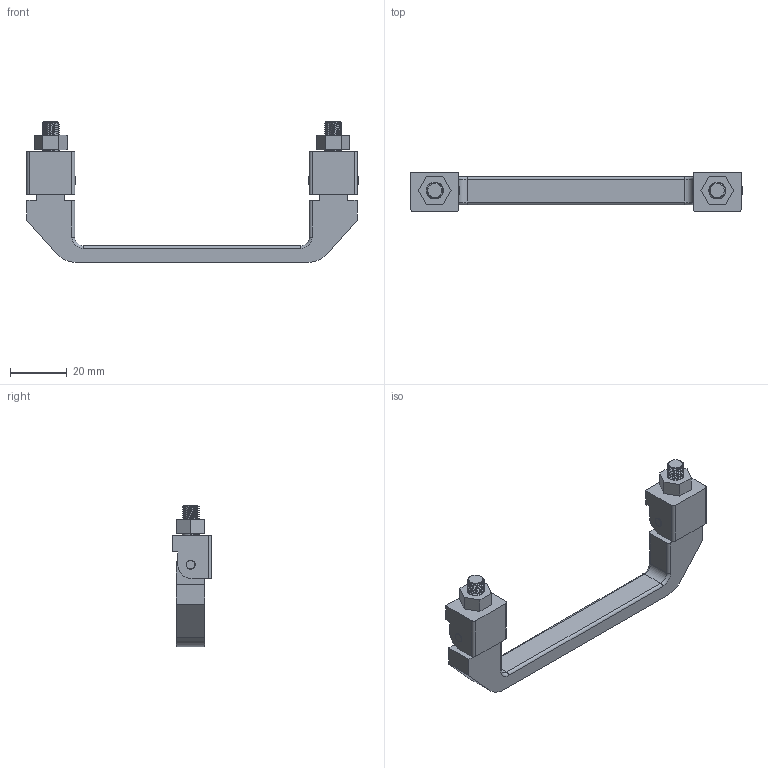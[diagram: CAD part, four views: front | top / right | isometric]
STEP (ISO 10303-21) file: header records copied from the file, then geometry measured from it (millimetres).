
FILE_DESCRIPTION (( 'STEP AP203' ), '1' );
FILE_NAME ('XG01-056-2.STEP', '2024-03-13T02:00:31', ( '' ), ( '' ), 'SwSTEP 2.0', 'SolidWorks 2020', '' );
FILE_SCHEMA (( 'CONFIG_CONTROL_DESIGN' ));
Length unit declared in the file: millimetre
Products named in the file (4): 參忒; XG01-056-2; 錨璃1; M6蹟譫
Assembly tree (5 placements, depth 2):
  XG01-056-2
    參忒
    錨璃1  x2
    M6蹟譫  x2
Bounding box: 117.5 x 14 x 50 mm (x, y, z)
Volume: 18332.6 mm3; surface area: 10921.9 mm2
Topology: 9 solids, 9 shells, 218 faces, 578 edges, 378 vertices
Faces by surface type: cylinder 122, plane 72, bspline 14, cone 6, torus 4
Entity records: 7509 total; most frequent: CARTESIAN_POINT 4053, ORIENTED_EDGE 684, DIRECTION 578, EDGE_CURVE 342, VERTEX_POINT 223, AXIS2_PLACEMENT_3D 204, LINE 170, VECTOR 170
